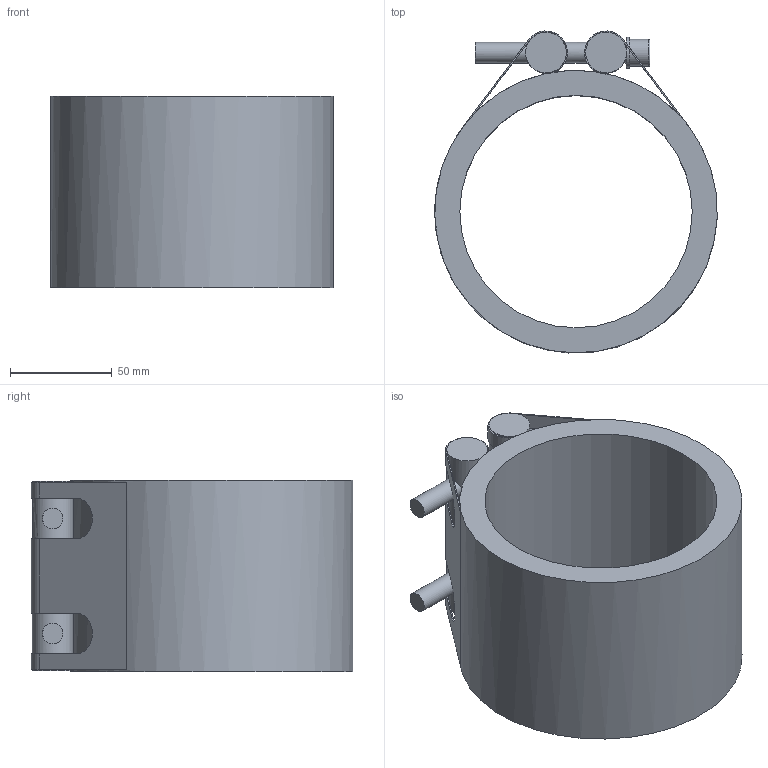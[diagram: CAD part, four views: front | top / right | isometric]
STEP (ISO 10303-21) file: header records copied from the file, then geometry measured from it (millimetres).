
FILE_DESCRIPTION(/* description */ ('Standard Produkte / Standard Products'),/* implementation_level */ '2;1');
FILE_NAME(/* name */ 'C:\Users\BR_11K\Desktop\STRAUB PLAST-GRIP 114.3 mm.stp',/* time_stamp */ '2016-05-09T08:14:30+02:00',/* author */ ('BR_11K'),/* organization */ (''),/* preprocessor_version */ 'ST-DEVELOPER v16.1',/* originating_system */ 'Autodesk Inventor 2016',/* authorisation */ '');
FILE_SCHEMA (('AUTOMOTIVE_DESIGN { 1 0 10303 214 3 1 1 }'));
Length unit declared in the file: millimetre
Products named in the file (1): STRAUB PLAST-GRIP 114.3 mm
Bounding box: 138.52 x 157.89 x 94 mm (x, y, z)
Volume: 531324.7 mm3; surface area: 112658.4 mm2
Topology: 1 solids, 1 shells, 88 faces, 254 edges, 163 vertices
Faces by surface type: plane 56, cylinder 30, torus 2
Full cylindrical faces by diameter (mm): 10 x4, 13 x2, 15 x2, 20 x2, 114 x1, 138.6 x1
Entity records: 3052 total; most frequent: CARTESIAN_POINT 739, DIRECTION 476, ORIENTED_EDGE 460, EDGE_CURVE 226, AXIS2_PLACEMENT_3D 171, VERTEX_POINT 156, LINE 134, VECTOR 134
